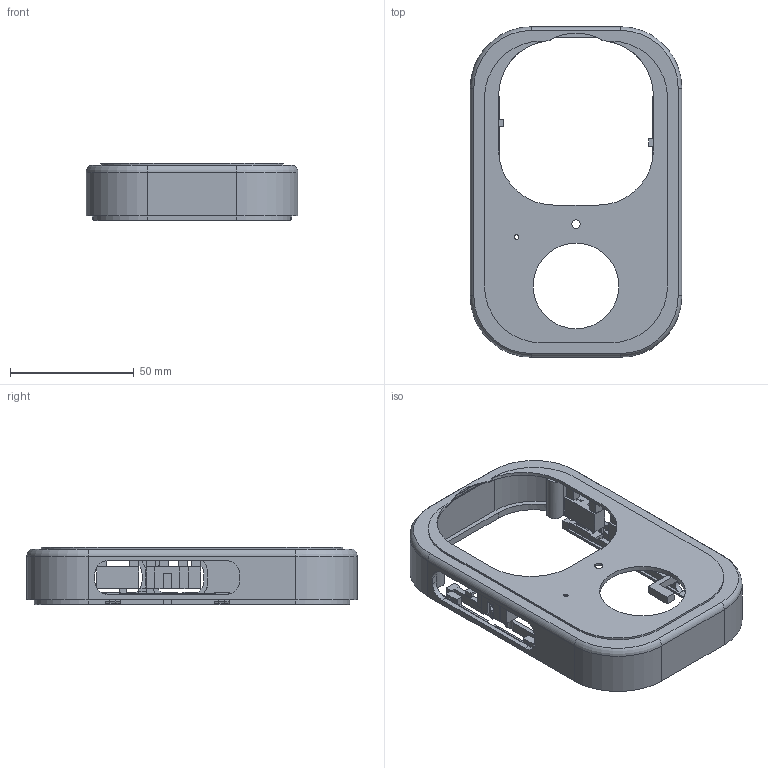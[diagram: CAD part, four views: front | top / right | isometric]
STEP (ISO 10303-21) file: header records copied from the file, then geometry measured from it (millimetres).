
FILE_DESCRIPTION(('Open CASCADE Model'),'2;1');
FILE_NAME('Open CASCADE Shape Model','2026-09-09T11:50:18',('Author'),( 'Open CASCADE'),'Open CASCADE STEP processor 7.7','Open CASCADE 7.7' ,'Unknown');
FILE_SCHEMA(('AUTOMOTIVE_DESIGN { 1 0 10303 214 1 1 1 1 }'));
Length unit declared in the file: millimetre
Products named in the file (1): Open CASCADE STEP translator 7.7 1
Bounding box: 85.6 x 133.6 x 23.2 mm (x, y, z)
Volume: 33273.9 mm3; surface area: 37423.3 mm2
Topology: 1 solids, 3 shells, 677 faces, 2020 edges, 1338 vertices
Faces by surface type: plane 500, cylinder 161, torus 16
Full cylindrical faces by diameter (mm): 1.7 x8, 1.8 x1, 3.4 x1, 5.2 x2, 34.6 x1
Entity records: 49696 total; most frequent: CARTESIAN_POINT 10012, DIRECTION 7248, LINE 4836, VECTOR 4836, ORIENTED_EDGE 4040, PCURVE 4040, DEFINITIONAL_REPRESENTATION 4040, EDGE_CURVE 2020
